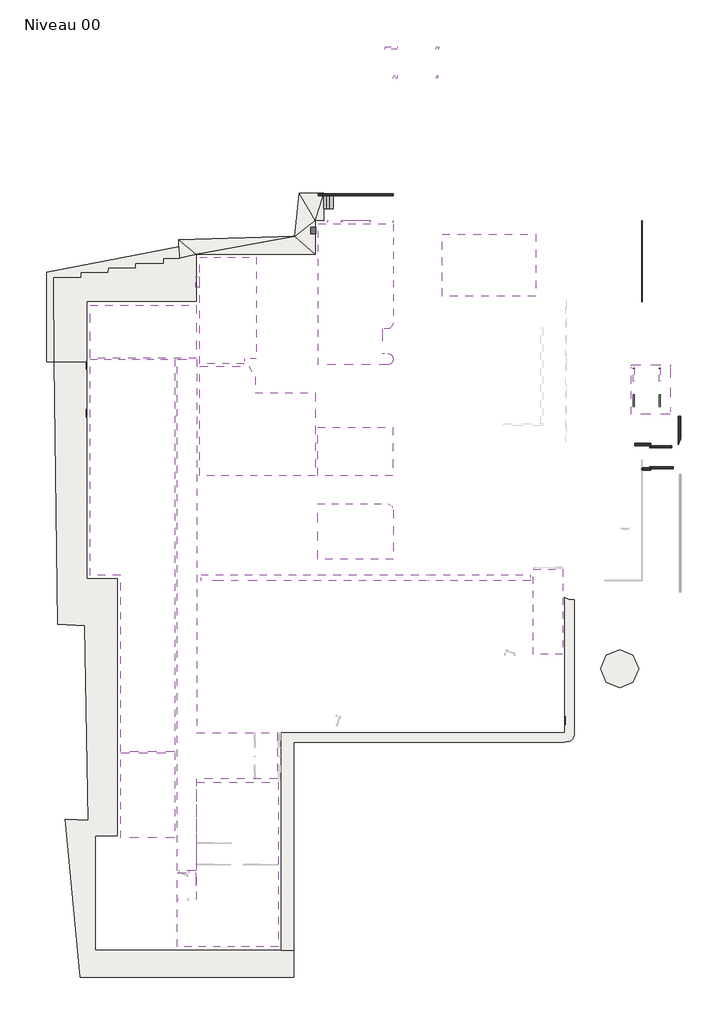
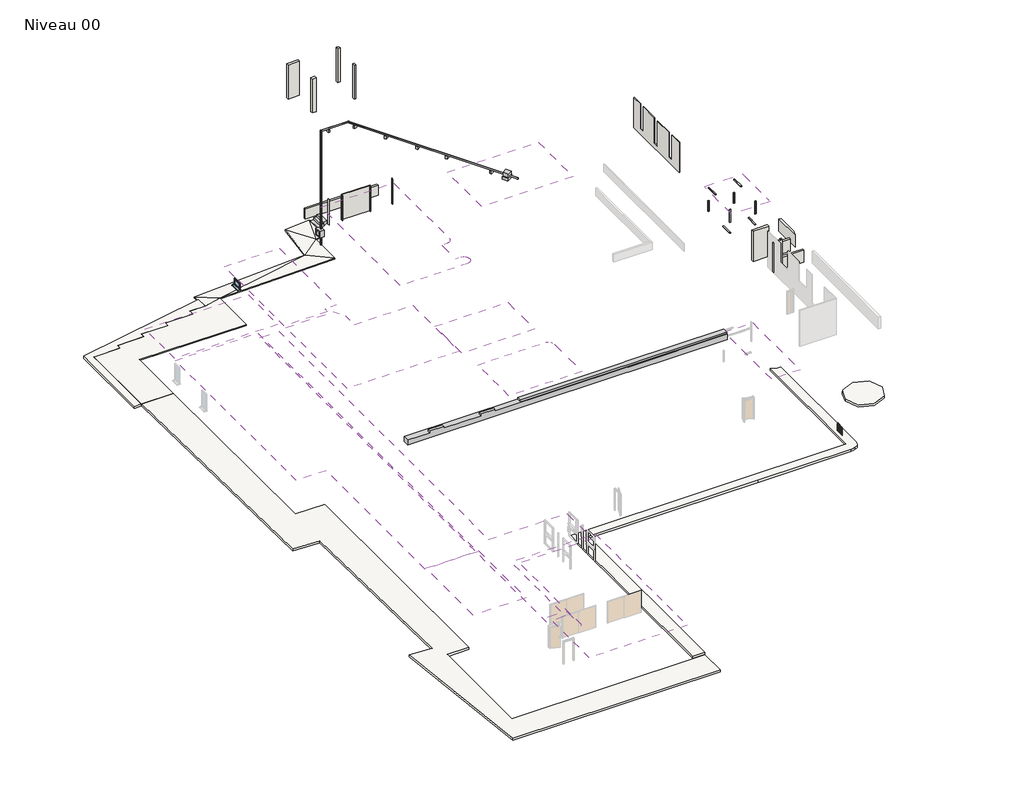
# One storey, part 2 of 2: 16 walls, 13 coverings, 8 members, 4 slabs, 3 proxies, 1 beam, 1 stair flight, 1 window.
"""IFC4 building model written with IfcOpenShell, lengths in millimetres."""

from ifc_helpers import new_model, si_unit, point, frame, frame_2d, origin, place, context, project, spatial, polyline, circle_curve, trimmed, segment, composite_curve, outline, extrude, faceted_brep, transform, mapped, element, save
from ifc_brep_helpers import plane_surface, cylinder_surface, advanced_brep
from components import generic_models_d6e69593, gaz_01_622c0aa1, type_a_d892137f, meneau_rectangulaire_50_x_100mm_d37e7714, meneau_rectangulaire_50_x_100mm_6a33d58d, meneau_rectangulaire_50_x_100mm_9fbe2ceb, meneau_rectangulaire_50_x_100mm_ca9cbeae, window_90_x_60cm_7dc5db21

model = new_model("IFC4")

# Units and contexts
model_context = context("Model", 3, world=origin())
ifc_project = project(units=[si_unit("LENGTHUNIT", "METRE", prefix="MILLI")], contexts=[model_context])

# Site, building, storey
site = spatial("IfcSite", under=ifc_project)
building = spatial("IfcBuilding", under=site)
storey = spatial("IfcBuildingStorey", under=building, Name="Niveau 00", Elevation=0.0)

# Beam
placement = place(None, origin())
element("IfcBeam", 1, ObjectType="M_Béton-Poutre rectangulaire T2 : 55x65h", at=placement, inside=storey, context=model_context, shape_type="Brep", body=[
    faceted_brep([(-6831.0863322, -21061.25307, 3221.8727639), (-6831.0863322, -20511.25307, 3221.8727639), (-6831.0863322, -20511.25307, 3871.8727639), (-6831.0863322, -20966.25307, 3871.8727639), (-6831.0863322, -20966.25307, 3703.3082742), (-6831.0863322, -21061.25307, 3703.3082742), (-35918.9891752, -20511.25307, 3221.8727639), (-35918.9891752, -21061.25307, 3221.8727639), (-35918.9891752, -21061.25307, 3703.3082742), (-35918.9891752, -20511.25307, 3703.3082742), (-15797.6697002, -20511.25307, 3871.8727639), (-15997.6697002, -20511.25307, 3871.8727639), (-25593.9891731, -20511.25307, 3871.8727639), (-25593.9891731, -20966.25307, 3871.8727639), (-15997.6697002, -21061.25307, 3221.8727639), (-15797.6697002, -21061.25307, 3221.8727639), (-15797.6697002, -21061.25307, 3703.3082742), (-15997.6697002, -21061.25307, 3703.3082742), (-27960.9246741, -21061.25307, 3703.3082742), (-27960.9246741, -21061.25307, 3871.8727639), (-29260.9246741, -21061.25307, 3871.8727639), (-29260.9246741, -21061.25307, 3703.3082742), (-32619.0462334, -21061.25307, 3703.3082742), (-32619.0462334, -21061.25307, 3871.8727639), (-33919.0462334, -21061.25307, 3871.8727639), (-33919.0462334, -21061.25307, 3703.3082742), (-15997.6697002, -20511.25307, 3221.8727639), (-15797.6697002, -20511.25307, 3221.8727639), (-25593.9891731, -20511.25307, 3703.3082742), (-33919.0462334, -20827.822974, 3703.3082742), (-32619.0462334, -20827.822974, 3703.3082742), (-29260.9246741, -20827.822974, 3703.3082742), (-27960.9246741, -20827.822974, 3703.3082742), (-25593.9891731, -20966.25307, 3703.3082742), (-32619.0462334, -20827.822974, 3871.8727639), (-33919.0462334, -20827.822974, 3871.8727639), (-29260.9246741, -20827.822974, 3871.8727639), (-27960.9246741, -20827.822974, 3871.8727639)], [[[0, 1, 2, 3, 4, 5]], [[6, 7, 8, 9]], [[3, 2, 10, 11, 12, 13]], [[7, 14, 15, 0, 5, 16, 17, 18, 19, 20, 21, 22, 23, 24, 25, 8]], [[1, 0, 15, 14, 7, 6, 26, 27]], [[2, 1, 27, 26, 6, 9, 28, 12, 11, 10]], [[29, 30, 22, 21, 31, 32, 18, 17, 16, 5, 4, 33, 28, 9, 8, 25]], [[28, 33, 13, 12]], [[33, 4, 3, 13]], [[22, 30, 34, 23]], [[30, 29, 35, 34]], [[29, 25, 24, 35]], [[32, 31, 36, 37]], [[31, 21, 20, 36]], [[18, 32, 37, 19]], [[20, 19, 37, 36]], [[24, 23, 34, 35]]]),
])

# Proxies
generic_models_shape = generic_models_d6e69593(model_context)
element("IfcBuildingElementProxy", 2, Name="Conduit Gaz : Conduit Gaz", ObjectType="Conduit Gaz : Conduit Gaz", at=placement, inside=storey, context=model_context, shape_type="MappedRepresentation", body=[
    mapped(generic_models_shape, transform((0.0, 0.0, 0.0), x_axis=(1.0, 0.0, 0.0), y_axis=(0.0, 1.0, 0.0), z_axis=(0.0, 0.0, 1.0))),
])
gaz_01_shape = gaz_01_622c0aa1(model_context)
element("IfcBuildingElementProxy", 3, Name="GAZ : #01", ObjectType="GAZ : #01", at=placement, inside=storey, context=model_context, shape_type="MappedRepresentation", body=[
    mapped(gaz_01_shape, transform((-25773.9891757, 9919.7515991, 1140.0), x_axis=(0.0, -1.0, 0.0), y_axis=(1.0, 0.0, 0.0), z_axis=(0.0, 0.0, 1.0))),
])
type_a_shape = type_a_d892137f(model_context)
element("IfcBuildingElementProxy", 4, Name="Grille d'aération - Mur : Type A", ObjectType="Grille d'aération - Mur : Type A", at=placement, inside=storey, context=model_context, shape_type="MappedRepresentation", body=[
    mapped(type_a_shape, transform((-3725.9483345, -33283.769554, -1374.7653088), x_axis=(0.0, -1.0, 0.0), y_axis=(1.0, 0.0, 0.0), z_axis=(0.0, 0.0, 1.0))),
])

# Coverings
element("IfcCovering", 5, ObjectType="Normal", at=placement, inside=storey, context=model_context, shape_type="SweptSolid", body=[
    extrude(outline(polyline([(-38243.9891749, -1481.0175877), (-38243.9891749, -36189.0543071), (-43042.9002047, -36189.0543071), (-43042.9002047, -20566.6974201), (-45739.2374821, -20566.6974201), (-45739.2374821, -1481.0175877), (-38243.9891749, -1481.0175877)])), frame((0.0, 0.0, 2950.0), z_axis=(0.0, 0.0, 1.0), x_axis=(1.0, 0.0, 0.0)), (0.0, 0.0, 1.0), 50.0),
])
element("IfcCovering", 6, ObjectType="Normal", at=placement, inside=storey, context=model_context, shape_type="Brep", body=[
    faceted_brep([(-31051.1142211, 7572.6789506, 3150.0), (-36043.9891754, 7572.6789506, 3150.0), (-36043.9891754, -1877.8947551, 3150.0), (-32104.7401237, -1877.894755, 3150.0), (-32104.7401237, -1427.894755, 3150.0), (-31051.1142211, -1427.894755, 3150.0), (-32669.0462334, 3122.177026, 3150.0), (-32669.0462334, 1622.177026, 3150.0), (-33869.0462334, 1622.177026, 3150.0), (-33869.0462334, 3122.177026, 3150.0), (-32669.0462334, 152.6428853, 3150.0), (-32669.0462334, -1347.3571147, 3150.0), (-33869.0462334, -1347.3571147, 3150.0), (-33869.0462334, 152.6428853, 3150.0), (-32669.0462334, 6171.7111666, 3150.0), (-32669.0462334, 4671.7111666, 3150.0), (-33869.0462334, 4671.7111666, 3150.0), (-33869.0462334, 6171.7111666, 3150.0), (-36043.9891754, 7572.6789506, 3100.0), (-31051.1142211, 7572.6789506, 3100.0), (-31051.1142211, -1427.894755, 3100.0), (-32104.7401237, -1427.894755, 3100.0), (-32104.7401237, -1877.894755, 3100.0), (-36043.9891754, -1877.8947551, 3100.0), (-32719.0462334, 4721.7111666, 3100.0), (-32719.0462334, 6121.7111666, 3100.0), (-33819.0462334, 6121.7111666, 3100.0), (-33819.0462334, 4721.7111666, 3100.0), (-32719.0462334, 1672.177026, 3100.0), (-32719.0462334, 3072.177026, 3100.0), (-33819.0462334, 3072.177026, 3100.0), (-33819.0462334, 1672.177026, 3100.0), (-32719.0462334, -1297.3571147, 3100.0), (-32719.0462334, 102.6428853, 3100.0), (-33819.0462334, 102.6428853, 3100.0), (-33819.0462334, -1297.3571147, 3100.0), (-32719.0462334, 4721.7111666, 3110.0), (-32719.0462334, 6121.7111666, 3110.0), (-33819.0462334, 4721.7111666, 3110.0), (-33819.0462334, 6121.7111666, 3110.0), (-32719.0462334, 1672.177026, 3110.0), (-32719.0462334, 3072.177026, 3110.0), (-33819.0462334, 1672.177026, 3110.0), (-33819.0462334, 3072.177026, 3110.0), (-32719.0462334, -1297.3571147, 3110.0), (-32719.0462334, 102.6428853, 3110.0), (-33819.0462334, -1297.3571147, 3110.0), (-33819.0462334, 102.6428853, 3110.0), (-33869.0462334, 1622.177026, 3110.0), (-32669.0462334, 1622.177026, 3110.0), (-32669.0462334, 3122.177026, 3110.0), (-33869.0462334, 3122.177026, 3110.0), (-33869.0462334, -1347.3571147, 3110.0), (-32669.0462334, -1347.3571147, 3110.0), (-32669.0462334, 152.6428853, 3110.0), (-33869.0462334, 152.6428853, 3110.0), (-33869.0462334, 4671.7111666, 3110.0), (-32669.0462334, 4671.7111666, 3110.0), (-32669.0462334, 6171.7111666, 3110.0), (-33869.0462334, 6171.7111666, 3110.0)], [[[0, 1, 2, 3, 4, 5], [6, 7, 8, 9], [10, 11, 12, 13], [14, 15, 16, 17]], [[18, 19, 20, 21, 22, 23], [24, 25, 26, 27], [28, 29, 30, 31], [32, 33, 34, 35]], [[1, 0, 19, 18]], [[2, 1, 18, 23]], [[3, 2, 23, 22]], [[4, 3, 22, 21]], [[5, 4, 21, 20]], [[0, 5, 20, 19]], [[25, 24, 36, 37]], [[24, 27, 38, 36]], [[27, 26, 39, 38]], [[26, 25, 37, 39]], [[29, 28, 40, 41]], [[28, 31, 42, 40]], [[31, 30, 43, 42]], [[30, 29, 41, 43]], [[33, 32, 44, 45]], [[32, 35, 46, 44]], [[35, 34, 47, 46]], [[34, 33, 45, 47]], [[48, 49, 50, 51], [41, 40, 42, 43]], [[52, 53, 54, 55], [45, 44, 46, 47]], [[56, 57, 58, 59], [37, 36, 38, 39]], [[50, 49, 7, 6]], [[51, 50, 6, 9]], [[48, 51, 9, 8]], [[49, 48, 8, 7]], [[54, 53, 11, 10]], [[55, 54, 10, 13]], [[52, 55, 13, 12]], [[53, 52, 12, 11]], [[58, 57, 15, 14]], [[59, 58, 14, 17]], [[56, 59, 17, 16]], [[57, 56, 16, 15]]]),
])
element("IfcCovering", 7, ObjectType="Normal", at=placement, inside=storey, context=model_context, shape_type="SweptSolid", body=[
    extrude(outline(polyline([(-44961.7005075, -53401.1523244), (-44961.7005075, -43867.1378737), (-38243.9891749, -43867.1378737), (-38243.9891749, -53401.1523244), (-44961.7005075, -53401.1523244)])), frame((0.0, 0.0, 3100.0), z_axis=(0.0, 0.0, 1.0), x_axis=(1.0, 0.0, 0.0)), (0.0, 0.0, 1.0), 50.0),
    extrude(outline(polyline([(-29123.0967815, -38859.0543071), (-29123.0967815, -53401.1523244), (-38043.9891749, -53401.1523244), (-38043.9891749, -46874.4568753), (-36403.9891748, -46874.4568753), (-36403.9891748, -49189.481824), (-36303.9891748, -49189.481824), (-36303.9891748, -38859.0543071), (-29123.0967815, -38859.0543071)])), frame((0.0, 0.0, 3100.0), z_axis=(0.0, 0.0, 1.0), x_axis=(1.0, 0.0, 0.0)), (0.0, 0.0, 1.0), 50.0),
])
element("IfcCovering", 8, ObjectType="Normal", at=placement, inside=storey, context=model_context, shape_type="SweptSolid", body=[
    extrude(outline(polyline([(-38043.9891749, -1481.0175876), (-36318.9891758, -1481.0175876), (-36318.9891749, -34509.0543071), (-29183.0967808, -34509.0543071), (-29183.0967808, -38559.0543071), (-36343.9891748, -38559.0543071), (-36343.9891748, -46674.4568753), (-38043.9891749, -46674.4568753), (-38043.9891749, -1481.0175876)]), holes=[polyline([(-37825.1308608, -1997.4), (-37825.1308608, -11819.6), (-36604.6058435, -11819.6), (-36604.6058435, -1997.4), (-37825.1308608, -1997.4)]), polyline([(-37822.5825058, -14149.192702), (-37822.5825058, -38171.392702), (-36603.3658873, -38171.392702), (-36603.3658873, -14149.192702), (-37822.5825058, -14149.192702)]), polyline([(-34179.0458982, -36054.322974), (-34179.0458982, -37154.322974), (-33080.5534099, -37154.322974), (-33080.5534099, -36054.322974), (-34179.0458982, -36054.322974)])]), frame((0.0, 0.0, 2450.0), z_axis=(0.0, 0.0, 1.0), x_axis=(1.0, 0.0, 0.0)), (0.0, 0.0, 1.0), 50.0),
])
element("IfcCovering", 9, ObjectType="Normal", at=placement, inside=storey, context=model_context, shape_type="SweptSolid", body=[
    extrude(outline(polyline([(-6531.0863322, -20050.1709526), (-3945.9483345, -20050.1709526), (-3945.9483345, -27537.5199086), (-6531.0863322, -27537.5199086), (-6531.0863322, -20050.1709526)])), frame((0.0, 0.0, 3200.0), z_axis=(0.0, 0.0, 1.0), x_axis=(1.0, 0.0, 0.0)), (0.0, 0.0, 1.0), 50.0),
])
element("IfcCovering", 10, ObjectType="Normal", at=placement, inside=storey, context=model_context, shape_type="SweptSolid", body=[
    extrude(outline(polyline([(-6328.022694, 9599.0806224), (-6328.022694, 4110.8240436), (-14614.7120712, 4110.8240436), (-14614.7120712, 9599.0806224), (-6328.022694, 9599.0806224)])), frame((0.0, 0.0, 3443.3082742), z_axis=(0.0, 0.0, 1.0), x_axis=(1.0, 0.0, 0.0)), (0.0, 0.0, 1.0), 50.0),
])
element("IfcCovering", 11, ObjectType="Normal", at=placement, inside=storey, context=model_context, shape_type="AdvancedBrep", body=[
    advanced_brep(
    [(-19494.1054564, 1216.2912043, 3400.0), (-18944.1054563, 1766.2912045, 3400.0), (-18944.0938637, 10540.8848592, 3400.0), (-25553.9891729, 10540.8848592, 3400.0), (-25553.9891729, -1968.7412456, 3400.0), (-19413.2254305, -1968.7412458, 3400.0), (-19408.571564, -934.1864447, 3400.0), (-19923.4631762, -934.1864447, 3400.0), (-19923.4631762, 1216.2912043, 3400.0), (-19494.1054564, 1216.2912043, 3350.0), (-19923.4631762, 1216.2912043, 3350.0), (-19923.4631762, -934.1864447, 3350.0), (-19408.571564, -934.1864447, 3350.0), (-19413.2254305, -1968.7412458, 3350.0), (-25553.9891729, -1968.7412456, 3350.0), (-25553.9891729, 10540.8848592, 3350.0), (-18944.0938637, 10540.8848592, 3350.0), (-18944.0938637, 1766.2912044, 3350.0)],
    [
        (0, 1, circle_curve(frame((-19494.1054564, 1766.2912045, 3400.0), z_axis=(0.0, 0.0, 1.0), x_axis=(1.0, 0.0, 0.0)), 550.0000002)),
        (1, 2),
        (2, 3),
        (3, 4),
        (4, 5),
        (5, 6, circle_curve(frame((-19463.989174, -1451.2250209, 3400.0), z_axis=(0.0, 0.0, 1.0), x_axis=(1.0, 0.0, 0.0)), 520.0000007)),
        (6, 7),
        (7, 8),
        (8, 0),
        (9, 10),
        (10, 11),
        (11, 12),
        (12, 13, circle_curve(frame((-19463.989174, -1451.2250209, 3350.0), z_axis=(0.0, 0.0, -1.0), x_axis=(1.0, 0.0, 0.0)), 520.0000007)),
        (13, 14),
        (14, 15),
        (15, 16),
        (16, 17),
        (17, 9, circle_curve(frame((-19494.1054564, 1766.2912045, 3350.0), z_axis=(0.0, 0.0, -1.0), x_axis=(1.0, 0.0, 0.0)), 550.0000002)),
        (0, 9),
        (17, 1),
        (16, 2),
        (15, 3),
        (14, 4),
        (13, 5),
        (12, 6),
        (11, 7),
        (10, 8),
    ],
    [
        plane_surface(frame((-18944.1054563, 1766.2912045, 3400.0), z_axis=(0.0, 0.0, 1.0), x_axis=(0.0, 1.0, 0.0))),
        plane_surface(frame((-18944.1054563, 1766.2912045, 3350.0), z_axis=(0.0, 0.0, -1.0), x_axis=(0.0, -1.0, 0.0))),
        cylinder_surface(frame((-19494.1054564, 1766.2912045, 3350.0), z_axis=(0.0, 0.0, 1.0), x_axis=(1.0, 0.0, 0.0)), 550.0000002),
        plane_surface(frame((-18944.0938637, 1766.2912044, 3400.0), z_axis=(1.0, 0.0, 0.0), x_axis=(0.0, 0.0, -1.0))),
        plane_surface(frame((-18944.0938637, 10540.8848592, 3400.0), z_axis=(0.0, 1.0, 0.0), x_axis=(0.0, 0.0, -1.0))),
        plane_surface(frame((-25553.9891729, 10540.8848592, 3400.0), z_axis=(-1.0, 0.0, 0.0), x_axis=(0.0, 0.0, -1.0))),
        plane_surface(frame((-25553.9891729, -1968.7412456, 3400.0), z_axis=(-4.0842466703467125e-11, -1.0, 0.0), x_axis=(0.0, 0.0, -1.0))),
        cylinder_surface(frame((-19463.989174, -1451.2250209, 3350.0), z_axis=(0.0, 0.0, 1.0), x_axis=(1.0, 0.0, 0.0)), 520.0000007),
        plane_surface(frame((-19408.571564, -934.1864447, 3400.0), z_axis=(0.0, 1.0, 0.0), x_axis=(0.0, 0.0, -1.0))),
        plane_surface(frame((-19923.4631762, -934.1864447, 3400.0), z_axis=(1.0, 0.0, 0.0), x_axis=(0.0, 0.0, -1.0))),
        plane_surface(frame((-19923.4631762, 1216.2912043, 3400.0), z_axis=(0.0, -1.0, 0.0), x_axis=(0.0, 0.0, -1.0))),
    ],
    [
        (0, [[1, 2, 3, 4, 5, 6, 7, 8, 9]]),
        (1, [[10, 11, 12, 13, 14, 15, 16, 17, 18]]),
        (2, [[-1, 19, -18, 20]]),
        (3, [[-2, -20, -17, 21]]),
        (4, [[-3, -21, -16, 22]]),
        (5, [[-4, -22, -15, 23]]),
        (6, [[-5, -23, -14, 24]]),
        (7, [[-6, -24, -13, 25]]),
        (8, [[-7, -25, -12, 26]]),
        (9, [[-8, -26, -11, 27]]),
        (10, [[-9, -27, -10, -19]]),
    ],
),
])
element("IfcCovering", 12, ObjectType="Normal", at=placement, inside=storey, context=model_context, shape_type="SweptSolid", body=[
    extrude(outline(polyline([(-25593.9891711, -11749.0543063), (-25593.9891711, -7468.7412448), (-18958.9891727, -7468.7412448), (-18958.9891727, -11749.0543063), (-25593.9891711, -11749.0543063)])), frame((0.0, 0.0, 2800.0), z_axis=(0.0, 0.0, 1.0), x_axis=(1.0, 0.0, 0.0)), (0.0, 0.0, 1.0), 50.0),
])
element("IfcCovering", 13, ObjectType="Normal", at=placement, inside=storey, context=model_context, shape_type="SweptSolid", body=[
    extrude(outline(polyline([(-36343.9891745, 3334.644505), (-36343.9891745, -1381.0175877), (-45739.2374821, -1381.0175877), (-45739.2374821, 3334.644505), (-36343.9891745, 3334.644505)])), frame((0.0, 0.0, 3050.0), z_axis=(0.0, 0.0, 1.0), x_axis=(1.0, 0.0, 0.0)), (0.0, 0.0, 1.0), 50.0),
])
element("IfcCovering", 14, ObjectType="Normal", at=placement, inside=storey, context=model_context, shape_type="SweptSolid", body=[
    extrude(outline(polyline([(-25843.9891711, -11759.0543063), (-36043.9891754, -11759.0543063), (-36043.9891754, -2077.8947551), (-31719.6166107, -2077.894755), (-31151.1142183, -3018.6471572), (-31151.1142183, -4418.7412446), (-25843.9891711, -4418.7412446), (-25843.9891711, -11759.0543063)]), holes=[polyline([(-32719.0462334, -2926.8912553), (-33819.0462334, -2926.8912553), (-33819.0462334, -4326.8912553), (-32719.0462334, -4326.8912553), (-32719.0462334, -2926.8912553)]), polyline([(-32719.0462334, -5902.822974), (-33819.0462334, -5902.822974), (-33819.0462334, -7302.822974), (-32719.0462334, -7302.822974), (-32719.0462334, -5902.822974)]), polyline([(-32719.0462334, -10307.822974), (-32719.0462334, -8907.822974), (-33819.0462334, -8907.822974), (-33819.0462334, -10307.822974), (-32719.0462334, -10307.822974)]), polyline([(-29040.9246741, -5895.322974), (-29040.9246741, -7302.822974), (-27933.4246741, -7302.822974), (-27933.4246741, -5895.322974), (-29040.9246741, -5895.322974)]), polyline([(-29040.9246741, -10307.822974), (-27933.4246741, -10307.822974), (-27933.4246741, -8900.322974), (-29040.9246741, -8900.322974), (-29040.9246741, -10307.822974)])]), frame((0.0, 0.0, 3080.0), z_axis=(0.0, 0.0, 1.0), x_axis=(1.0, 0.0, 0.0)), (0.0, 0.0, 1.0), 50.0),
])
element("IfcCovering", 15, ObjectType="Normal", at=placement, inside=storey, context=model_context, shape_type="SweptSolid", body=[
    extrude(outline(composite_curve([segment(polyline([(-25593.9891729, -19159.0543067), (-25593.9891729, -14239.1151366), (-19389.5861288, -14239.1151366)]), True, "CONTINUOUS"), segment(trimmed(circle_curve(frame_2d((-19493.9891721, -14779.115141)), 550.0000002), [point((-19389.5861288, -14239.1151366))], [point((-18943.9891719, -14779.115141))], False, "CARTESIAN"), True, "CONTINUOUS"), segment(polyline([(-18943.9891719, -14779.115141), (-18943.9891718, -19159.0543067), (-25593.9891729, -19159.0543067)]), True, "CONTINUOUS")], self_intersect=False)), frame((0.0, 0.0, 3200.0), z_axis=(0.0, 0.0, 1.0), x_axis=(1.0, 0.0, 0.0)), (0.0, 0.0, 1.0), 50.0),
])
element("IfcCovering", 16, ObjectType="Normal", at=placement, inside=storey, context=model_context, shape_type="SweptSolid", body=[
    extrude(outline(polyline([(-43042.9002047, -43767.1378736), (-43042.9002047, -36264.8269594), (-38243.9891749, -36264.8269594), (-38243.9891749, -43767.1378736), (-43042.9002047, -43767.1378736)])), frame((0.0, 0.0, 3100.0), z_axis=(0.0, 0.0, 1.0), x_axis=(1.0, 0.0, 0.0)), (0.0, 0.0, 1.0), 50.0),
])
element("IfcCovering", 17, ObjectType="Normal FP Bleu", at=placement, inside=storey, context=model_context, shape_type="Brep", body=[
    faceted_brep([(5579.2383271, -6329.9413933, 3228.0838649), (5579.2383271, -5899.6253835, 3228.0838649), (5579.2383271, -5699.6253835, 3228.0838649), (5579.2383271, -2249.6253919, 3228.0838649), (5579.2383271, -2049.6253919, 3228.0838649), (5579.2383271, -1932.3694361, 3228.0838649), (2100.3283813, -1932.3694361, 3228.0838649), (2100.3283813, -2049.6253919, 3228.0838649), (2100.3283813, -2249.6253919, 3228.0838649), (2100.3283813, -6329.9413933, 3228.0838649), (5579.2383271, -6329.9413933, 3198.0838649), (2100.3283813, -6329.9413933, 3198.0838649), (2100.3283813, -2249.6253919, 3198.0838649), (2100.3283813, -2049.6253919, 3198.0838649), (2100.3283813, -1932.3694361, 3198.0838649), (5579.2383271, -1932.3694361, 3198.0838649), (5579.2383271, -2049.6253919, 3198.0838649), (5579.2383271, -2249.6253919, 3198.0838649), (5579.2383271, -5699.6253835, 3198.0838649), (5579.2383271, -5899.6253835, 3198.0838649)], [[[0, 1, 2, 3, 4, 5, 6, 7, 8, 9]], [[10, 11, 12, 13, 14, 15, 16, 17, 18, 19]], [[5, 4, 3, 2, 1, 0, 10, 19, 18, 17, 16, 15]], [[6, 5, 15, 14]], [[9, 8, 7, 6, 14, 13, 12, 11]], [[0, 9, 11, 10]]]),
])

# Members
meneau_rectangulaire_50_x_100mm_shape = meneau_rectangulaire_50_x_100mm_d37e7714(model_context)
element("IfcMember", 18, ObjectType="Meneau rectangulaire : 50 x 100mm", at=placement, inside=storey, context=model_context, shape_type="MappedRepresentation", body=[
    mapped(meneau_rectangulaire_50_x_100mm_shape, transform((4624.2383271, -2299.6253919, 3243.3082742), x_axis=(0.0, 0.0, 1.0), y_axis=(1.0, 0.0, 0.0), z_axis=(0.0, 1.0, 0.0))),
])
element("IfcMember", 19, ObjectType="Meneau rectangulaire : 50 x 100mm", at=placement, inside=storey, context=model_context, shape_type="MappedRepresentation", body=[
    mapped(meneau_rectangulaire_50_x_100mm_shape, transform((2320.3283813, -2299.6253919, 3243.3082742), x_axis=(0.0, 0.0, 1.0), y_axis=(1.0, 0.0, 0.0), z_axis=(0.0, 1.0, 0.0))),
])
meneau_rectangulaire_50_x_100mm_2_shape = meneau_rectangulaire_50_x_100mm_6a33d58d(model_context)
element("IfcMember", 20, ObjectType="Meneau rectangulaire : 50 x 100mm", at=placement, inside=storey, context=model_context, shape_type="MappedRepresentation", body=[
    mapped(meneau_rectangulaire_50_x_100mm_2_shape, transform((4624.2383271, -2249.6253919, 943.3082742), x_axis=(0.0, 1.0, 0.0), y_axis=(1.0, 0.0, 0.0), z_axis=(0.0, 0.0, -1.0))),
])
element("IfcMember", 21, ObjectType="Meneau rectangulaire : 50 x 100mm", at=placement, inside=storey, context=model_context, shape_type="MappedRepresentation", body=[
    mapped(meneau_rectangulaire_50_x_100mm_2_shape, transform((2320.3283813, -2249.6253919, 943.3082742), x_axis=(0.0, 1.0, 0.0), y_axis=(1.0, 0.0, 0.0), z_axis=(0.0, 0.0, -1.0))),
])
meneau_rectangulaire_50_x_100mm_3_shape = meneau_rectangulaire_50_x_100mm_9fbe2ceb(model_context)
element("IfcMember", 22, ObjectType="Meneau rectangulaire : 50 x 100mm", at=placement, inside=storey, context=model_context, shape_type="MappedRepresentation", body=[
    mapped(meneau_rectangulaire_50_x_100mm_3_shape, transform((4624.2383271, -5699.6253835, 3193.3082742), x_axis=(0.0, -1.0, 0.0), y_axis=(1.0, 0.0, 0.0), z_axis=(0.0, 0.0, 1.0))),
])
element("IfcMember", 23, ObjectType="Meneau rectangulaire : 50 x 100mm", at=placement, inside=storey, context=model_context, shape_type="MappedRepresentation", body=[
    mapped(meneau_rectangulaire_50_x_100mm_3_shape, transform((2320.3283813, -5699.6253835, 3193.3082742), x_axis=(0.0, -1.0, 0.0), y_axis=(1.0, 0.0, 0.0), z_axis=(0.0, 0.0, 1.0))),
])
meneau_rectangulaire_50_x_100mm_4_shape = meneau_rectangulaire_50_x_100mm_ca9cbeae(model_context)
element("IfcMember", 24, ObjectType="Meneau rectangulaire : 50 x 100mm", at=placement, inside=storey, context=model_context, shape_type="MappedRepresentation", body=[
    mapped(meneau_rectangulaire_50_x_100mm_4_shape, transform((4624.2383271, -5649.6253835, 893.3082742), x_axis=(0.0, 0.0, -1.0), y_axis=(1.0, 0.0, 0.0), z_axis=(0.0, -1.0, 0.0))),
])
element("IfcMember", 25, ObjectType="Meneau rectangulaire : 50 x 100mm", at=placement, inside=storey, context=model_context, shape_type="MappedRepresentation", body=[
    mapped(meneau_rectangulaire_50_x_100mm_4_shape, transform((2320.3283813, -5649.6253835, 893.3082742), x_axis=(0.0, 0.0, -1.0), y_axis=(1.0, 0.0, 0.0), z_axis=(0.0, -1.0, 0.0))),
])

# Slabs
element("IfcSlab", 26, ObjectType="carrelage terrasse 200mm", at=placement, inside=storey, context=model_context, shape_type="SweptSolid", body=[
    extrude(outline(polyline([(-46039.2374821, -1706.7284462), (-46039.2374821, -20866.6974201), (-43342.9002047, -20882.8520971), (-43342.9002047, -43577.1378761), (-45301.7005075, -43577.1378761), (-45301.7005075, -53741.1523244), (-27723.0967792, -53741.1523244), (-27723.0967792, -56128.1113003), (-46588.7261156, -56128.1113003), (-47934.7141649, -42121.2864604), (-45919.6099418, -42244.9240937), (-46193.8644033, -25019.8027554), (-48591.5599793, -24914.6555968), (-48929.6545442, -1722.1702012), (-46039.2374821, -1706.7284462)])), frame((0.0, 0.0, -200.0), z_axis=(0.0, 0.0, 1.0), x_axis=(1.0, 0.0, 0.0)), (0.0, 0.0, 1.0), 200.0),
    extrude(outline(polyline([(-49591.0404334, 6247.9116205), (-37895.7527535, 8478.3053744), (-37872.4166644, 7450.7897696), (-39262.9826212, 7434.2211689), (-39268.9069108, 7019.1922881), (-41761.9911606, 7012.0974128), (-41752.0640546, 6629.7354769), (-44152.7200695, 6616.3017196), (-44160.3976718, 6220.7762117), (-46558.7545414, 6183.0409659), (-46575.8167637, 5793.9984725), (-48029.075557, 5778.5469408), (-48977.6769405, 5768.4610951), (-48965.5471122, -1696.337001), (-49591.0404334, -1699.6786346), (-49591.0404334, 6247.9116205)])), frame((0.0, 0.0, -200.0), z_axis=(0.0, 0.0, 1.0), x_axis=(1.0, 0.0, 0.0)), (0.0, 0.0, 1.0), 200.0),
])
element("IfcSlab", 27, ObjectType="Générique 100 mm - Plein", at=placement, inside=storey, context=model_context, shape_type="Brep", body=[
    faceted_brep([(-25093.9891757, 13203.6568459, 200.0), (-25093.9891757, 13203.6568459, 300.0), (-25093.9891757, 10801.8580291, 300.0), (-25093.9891757, 10801.8580291, 200.0), (-27260.9470428, 13203.6568459, 30.0), (-27260.9470428, 13203.6568459, 130.0), (-27649.3448638, 9419.8175697, 50.0), (-27649.3448638, 9419.8175697, 150.0), (-37909.7816636, 9096.0148818, -200.0), (-37909.7816636, 9096.0148818, -100.0), (-37872.4166644, 7450.7897696, -100.0), (-37872.4166644, 7450.7897696, 0.0), (-39262.9826212, 7434.2211689, -100.0), (-39262.9826212, 7434.2211689, 0.0), (-39268.9069108, 7019.1922881, -100.0), (-39268.9069108, 7019.1922881, 0.0), (-41761.9911606, 7012.0974128, -100.0), (-41761.9911606, 7012.0974128, 0.0), (-41752.0640546, 6629.7354769, -100.0), (-41752.0640546, 6629.7354769, 0.0), (-44152.7200695, 6616.3017196, -100.0), (-44152.7200695, 6616.3017196, 0.0), (-44160.3976718, 6220.7762117, -100.0), (-44160.3976718, 6220.7762117, 0.0), (-46558.7545414, 6183.0409659, -100.0), (-46558.7545414, 6183.0409659, 0.0), (-46575.8167637, 5793.9984725, -100.0), (-46575.8167637, 5793.9984725, 0.0), (-48029.075557, 5778.5469408, -100.0), (-48029.075557, 5778.5469408, 0.0), (-48977.6769405, 5768.4610951, -100.0), (-48977.6769405, 5768.4610951, 0.0), (-48965.5048236, -1722.3617276, -100.0), (-48965.5048236, -1722.3617276, 0.0), (-46039.2375049, -1706.7284463, -100.0), (-46039.2375049, -1706.7284463, 0.0), (-25453.9891729, 10812.9657021, 252.0000004), (-25653.9891729, 10819.1366316, 225.3333337), (-25843.9891757, 10824.9990148, 200.0), (-25843.9891757, 10824.9990148, 100.0), (-25579.5547608, 10816.8399841, 135.257922), (-25453.9891729, 10812.9657021, 152.0000004), (-25843.9891751, 7822.6789551, 200.0), (-25843.9891751, 7822.6789551, 100.0), (-36333.9891766, 7822.6789551, 0.0), (-36333.9891766, 7822.6789551, -100.0), (-36333.9891766, 3664.644505, 0.0), (-36333.9891766, 3664.644505, -100.0), (-46039.2375073, 3664.6445029, 0.0), (-46039.2375073, 3664.6445029, -100.0), (-25653.9891729, 11427.592341, 225.3333337), (-25585.2346923, 11645.6501858, 234.5005978)], [[[0, 1, 2, 3]], [[4, 5, 1, 0]], [[6, 7, 5, 4]], [[8, 9, 7, 6]], [[10, 11, 9, 8]], [[12, 13, 11, 10]], [[14, 15, 13, 12]], [[16, 17, 15, 14]], [[18, 19, 17, 16]], [[20, 21, 19, 18]], [[22, 23, 21, 20]], [[24, 25, 23, 22]], [[26, 27, 25, 24]], [[28, 29, 27, 26]], [[30, 31, 29, 28]], [[32, 33, 31, 30]], [[34, 35, 33, 32]], [[3, 2, 36, 37, 38, 39, 40, 41]], [[39, 38, 42, 43]], [[43, 42, 44, 45]], [[45, 44, 46, 47]], [[47, 46, 48, 49]], [[49, 48, 35, 34]], [[1, 5, 38, 50, 51]], [[0, 39, 4]], [[5, 7, 38]], [[1, 51, 50, 38, 37, 36, 2]], [[4, 39, 6]], [[0, 3, 41, 40, 39]], [[7, 9, 44]], [[6, 45, 8]], [[7, 42, 38]], [[6, 39, 43]], [[9, 11, 44]], [[7, 44, 42]], [[8, 45, 10]], [[6, 43, 45]], [[11, 13, 15, 17, 19, 21, 23, 25, 27, 29, 31, 33, 35, 48, 46, 44]], [[10, 45, 47, 49, 34, 32, 30, 28, 26, 24, 22, 20, 18, 16, 14, 12]]]),
])
element("IfcSlab", 28, ObjectType="gazon 200", at=placement, inside=storey, context=model_context, shape_type="SweptSolid", body=[
    extrude(outline(composite_curve([segment(trimmed(circle_curve(frame_2d((1078.0056442, -28837.0721403)), 1682.0470888), [point((-604.0414447, -28837.0721403))], [point((2760.052733, -28837.0721403))], False, "CARTESIAN"), True, "CONTINUOUS"), segment(trimmed(circle_curve(frame_2d((1078.0056442, -28837.0721403)), 1682.0470888), [point((2760.052733, -28837.0721403))], [point((-604.0414447, -28837.0721403))], False, "CARTESIAN"), True, "CONTINUOUS")], self_intersect=False)), frame((0.0, 0.0, -200.0), z_axis=(0.0, 0.0, 1.0), x_axis=(1.0, 0.0, 0.0)), (0.0, 0.0, 1.0), 200.0),
])
element("IfcSlab", 29, ObjectType="carrelage terrasse 200mm", at=placement, inside=storey, context=model_context, shape_type="SweptSolid", body=[
    extrude(outline(composite_curve([segment(polyline([(-27723.0967792, -35334.554731), (-27723.0967792, -53741.1523244), (-28823.0967447, -53741.1523244), (-28823.0967808, -34509.054307), (-3745.9483345, -34509.0543066), (-3745.9483345, -22510.0896184)]), True, "CONTINUOUS"), segment(trimmed(circle_curve(frame_2d((-3207.2166653, -22000.4141736)), 741.6204356), [point((-3745.9483345, -22510.0896184))], [point((-3323.4187679, -22732.8743717))], True, "CARTESIAN"), True, "CONTINUOUS"), segment(polyline([(-3323.4187679, -22732.8743717), (-2940.5272295, -22732.8743717), (-2940.5272295, -34509.0543066)]), True, "CONTINUOUS"), segment(trimmed(circle_curve(frame_2d((-3650.0440083, -34596.0236204)), 714.8270567), [point((-2940.5272295, -34509.0543066))], [point((-3099.0182115, -35051.3787481))], False, "CARTESIAN"), True, "CONTINUOUS"), segment(trimmed(circle_curve(frame_2d((-3504.3792583, -34731.1842995)), 516.5675785), [point((-3099.0182115, -35051.3787481))], [point((-3343.6271259, -35222.102638))], False, "CARTESIAN"), True, "CONTINUOUS"), segment(trimmed(circle_curve(frame_2d((-3833.3058683, -34023.0117903)), 1295.2235836), [point((-3343.6271259, -35222.102638))], [point((-3843.1383485, -35318.1980526))], False, "CARTESIAN"), True, "CONTINUOUS"), segment(polyline([(-3843.1383485, -35318.1980526), (-12237.2915038, -35334.5093322), (-27723.0967792, -35334.554731)]), True, "CONTINUOUS")], self_intersect=False)), frame((0.0, 0.0, 10.0), z_axis=(0.0, 0.0, 1.0), x_axis=(1.0, 0.0, 0.0)), (0.0, 0.0, 1.0), 200.0),
])

# Stair flight
element("IfcStairFlight", 30, ObjectType="Profondeur de structure 200 mm", at=placement, inside=storey, context=model_context, shape_type="Brep", body=[
    faceted_brep([(-24813.9891757, 12983.6568459, 408.5699058), (-25093.9891757, 12983.6568459, 408.5699058), (-25093.9891757, 11845.6501858, 408.5699058), (-24813.9891757, 11845.6501858, 408.5699058), (-24813.9891757, 12983.6568459, 230.0), (-25093.9891757, 12983.6568459, 230.0), (-25093.9891757, 11845.6501858, 230.0), (-24813.9891757, 11845.6501858, 230.0), (-24533.9891757, 12983.6568459, 587.1398115), (-24813.9891757, 12983.6568459, 587.1398115), (-24813.9891757, 11845.6501858, 587.1398115), (-24533.9891757, 11845.6501858, 587.1398115), (-24533.9891757, 12983.6568459, 349.9289658), (-24722.0393978, 12983.6568459, 230.0), (-24722.0393978, 11845.6501858, 230.0), (-24533.9891757, 11845.6501858, 349.9289658), (-24253.9891757, 12983.6568459, 765.7097173), (-24533.9891757, 12983.6568459, 765.7097173), (-24533.9891757, 11845.6501858, 765.7097173), (-24253.9891757, 11845.6501858, 765.7097173), (-24253.9891757, 12983.6568459, 528.4988716), (-24253.9891757, 11845.6501858, 528.4988716)], [[[0, 1, 2, 3]], [[1, 0, 4, 5]], [[2, 1, 5, 6]], [[3, 2, 6, 7]], [[8, 9, 10, 11]], [[4, 0, 9, 8, 12, 13]], [[0, 3, 10, 9]], [[3, 7, 14, 15, 11, 10]], [[16, 17, 18, 19]], [[17, 16, 20, 12, 8]], [[8, 11, 18, 17]], [[19, 18, 11, 15, 21]], [[16, 19, 21, 20]], [[5, 4, 13, 14, 7, 6]], [[14, 13, 12, 20, 21, 15]]]),
])

# Walls
element("IfcWall", 31, ObjectType="Mur EXE 200- Hach", at=placement, inside=storey, context=model_context, shape_type="AdvancedBrep", body=[
    advanced_brep(
    [(6284.4653664, -6499.6253828, 213.3082742), (6284.4653664, -9033.7294588, 213.3082742), (6284.4653664, -9033.7294588, 258.5326836), (6284.4653664, -9033.7294588, 1349.0273663), (6284.4653664, -6499.6253828, 1349.0273663), (6484.4653664, -6499.6253828, 213.3082742), (6484.4653664, -6499.6253828, 1349.0273663), (6484.4653664, -8504.5791969, 1349.0273663), (6484.4653664, -8504.5791969, 213.3082742)],
    [
        (0, 1),
        (1, 2),
        (2, 3),
        (3, 4),
        (4, 0),
        (5, 6),
        (6, 7),
        (7, 8),
        (8, 5),
        (0, 5),
        (8, 1, circle_curve(frame((5684.4653671, -8504.5791969, 213.3082742), z_axis=(0.0, 0.0, -1.0), x_axis=(1.0, 0.0, 0.0)), 799.9999993)),
        (3, 7, circle_curve(frame((5684.4653671, -8504.5791969, 1349.0273663), z_axis=(0.0, 0.0, 1.0), x_axis=(1.0, 0.0, 0.0)), 799.9999993)),
        (6, 4),
    ],
    [
        plane_surface(frame((6284.4653664, -8527.2577579, 213.3082742), z_axis=(-1.0, 0.0, 0.0), x_axis=(0.0, -1.0, 0.0))),
        plane_surface(frame((6484.4653664, -8527.2577579, 213.3082742), z_axis=(1.0, 0.0, 0.0), x_axis=(0.0, 1.0, 0.0))),
        plane_surface(frame((6284.4653664, -6499.6253828, 213.3082742), z_axis=(0.0, 0.0, -1.0), x_axis=(1.0, 0.0, 0.0))),
        plane_surface(frame((6284.4653664, -9352.6630618, 1349.0273663), z_axis=(0.0, 0.0, 1.0), x_axis=(1.0, 0.0, 0.0))),
        plane_surface(frame((6284.4653664, -6499.6253828, 1349.0273663), z_axis=(0.0, 1.0, 0.0), x_axis=(1.0, 0.0, 0.0))),
        cylinder_surface(frame((5684.4653671, -8504.5791969, 258.5326836), z_axis=(0.0, 0.0, 1.0), x_axis=(1.0, 0.0, 0.0)), 799.9999993),
    ],
    [
        (0, [[1, 2, 3, 4, 5]]),
        (1, [[6, 7, 8, 9]]),
        (2, [[-1, 10, -9, 11]]),
        (3, [[-4, 12, -7, 13]]),
        (4, [[-5, -13, -6, -10]]),
        (5, [[-3, -2, -11, -8, -12]]),
    ],
),
])
element("IfcWall", 32, ObjectType="Mur EXE 200- Hach", at=placement, inside=storey, context=model_context, shape_type="Brep", body=[
    faceted_brep([(3734.7471372, -9304.4569856, 213.3082742), (5698.4482838, -9304.4569856, 213.3082742), (5698.4482838, -9304.4569856, 1349.0273663), (3834.7471372, -9304.4569856, 1349.0273663), (3834.7471372, -9304.4569856, 893.3082742), (3734.7471372, -9304.4569856, 893.3082742), (3734.7471372, -9104.4569856, 213.3082742), (3734.7471372, -9104.4569856, 893.3082742), (3834.7471372, -9104.4569856, 893.3082742), (3834.7471372, -9104.4569856, 1349.0273663), (5696.574774, -9104.4569856, 1349.0273663), (5696.574774, -9104.4569856, 213.3082742), (3734.7471372, -9108.9802873, 213.3082742), (3734.7471372, -9108.9802873, 893.3082742), (3834.7471372, -9108.9802873, 893.3082742)], [[[0, 1, 2, 3, 4, 5]], [[6, 7, 8, 9, 10, 11]], [[1, 0, 12, 6, 11]], [[3, 2, 10, 9]], [[0, 5, 13, 7, 6, 12]], [[4, 14, 8, 7, 13, 5]], [[4, 3, 9, 8, 14]], [[2, 1, 11, 10]]]),
])
element("IfcWall", 33, ObjectType="@_Générique - Int. 180 mm", at=placement, inside=storey, context=model_context, shape_type="SweptSolid", body=[
    extrude(outline(polyline([(-25546.3919879, 13163.6568459), (-18947.0106696, 13163.6568459), (-18947.0106696, 12983.6568459), (-25547.4068865, 12983.6568459), (-25546.3919879, 13163.6568459)])), frame((0.0, 0.0, 700.0), z_axis=(0.0, 0.0, 1.0), x_axis=(1.0, 0.0, 0.0)), (0.0, 0.0, 1.0), 962.0994166),
])
element("IfcWall", 34, ObjectType="Mur EXE 40- Hach", at=placement, inside=storey, context=model_context, shape_type="Brep", body=[
    faceted_brep([(-23500.1626983, 10780.8848589, 1248.0838649), (-20985.267386, 10780.8848589, 1248.0838649), (-20945.267386, 10780.8848589, 1248.0838649), (-20945.267386, 10780.8848589, 3671.8727639), (-20985.267386, 10780.8848589, 3671.8727639), (-23500.1626983, 10780.8848589, 3671.8727639), (-23500.1626983, 10820.8848589, 1248.0838649), (-23500.1626983, 10820.8848589, 3671.8727639), (-20945.267386, 10820.8848589, 3671.8727639), (-20945.267386, 10820.8848589, 1248.0838649)], [[[0, 1, 2, 3, 4, 5]], [[6, 7, 8, 9]], [[2, 1, 0, 6, 9]], [[5, 4, 3, 8, 7]], [[0, 5, 7, 6]], [[3, 2, 9, 8]]]),
])
element("IfcWall", 35, ObjectType="Mur EXE 40- Hach", at=placement, inside=storey, context=model_context, shape_type="Brep", body=[
    faceted_brep([(-23500.1626983, 10640.8848592, 1248.0838649), (-23500.1626983, 10780.8848589, 1248.0838649), (-23500.1626983, 10820.8848589, 1248.0838649), (-23500.1626983, 10820.8848589, 3671.8727639), (-23500.1626983, 10780.8848589, 3671.8727639), (-23500.1626983, 10640.8848592, 3671.8727639), (-23540.1626983, 10640.8848592, 1248.0838649), (-23540.1626983, 10640.8848592, 3671.8727639), (-23540.1626983, 10820.8848589, 3671.8727639), (-23540.1626983, 10820.8848589, 1248.0838649)], [[[0, 1, 2, 3, 4, 5]], [[6, 7, 8, 9]], [[2, 1, 0, 6, 9]], [[5, 4, 3, 8, 7]], [[0, 5, 7, 6]], [[3, 2, 9, 8]]]),
])
element("IfcWall", 36, ObjectType="Mur EXE 40- Hach", at=placement, inside=storey, context=model_context, shape_type="Brep", body=[
    faceted_brep([(-24750.1626983, 10820.8848589, 1248.0838649), (-24750.1626983, 10650.8848592, 1248.0838649), (-24750.1626983, 10650.8848592, 3671.8727639), (-24750.1626983, 10780.8848589, 3671.8727639), (-24750.1626983, 10820.8848589, 3671.8727639), (-24750.1626983, 10820.8848589, 1298.0838649), (-24710.1626983, 10820.8848589, 1248.0838649), (-24710.1626983, 10820.8848589, 3671.8727639), (-24710.1626983, 10650.8848592, 3671.8727639), (-24710.1626983, 10650.8848592, 1248.0838649)], [[[0, 1, 2, 3, 4, 5]], [[6, 7, 8, 9]], [[1, 0, 6, 9]], [[2, 1, 9, 8]], [[4, 3, 2, 8, 7]], [[0, 5, 4, 7, 6]]]),
])
element("IfcWall", 37, ObjectType="Mur EXE 40- Hach", at=placement, inside=storey, context=model_context, shape_type="SweptSolid", body=[
    extrude(outline(polyline([(-18944.2188634, 10782.3848592), (-18944.2188634, 10640.8848592), (-18984.2188634, 10640.8848592), (-18984.2188634, 10782.3848592), (-18944.2188634, 10782.3848592)])), frame((0.0, 0.0, 1248.0838649), z_axis=(0.0, 0.0, 1.0), x_axis=(1.0, 0.0, 0.0)), (0.0, 0.0, 1.0), 2423.788899),
])
element("IfcWall", 38, ObjectType="Mur EXE 40- Hach", at=placement, inside=storey, context=model_context, shape_type="SweptSolid", body=[
    extrude(outline(polyline([(-20985.267386, 10650.8848592), (-20985.267386, 10780.8848589), (-20945.267386, 10780.8848589), (-20945.267386, 10650.8848592), (-20985.267386, 10650.8848592)])), frame((0.0, 0.0, 1248.0838649), z_axis=(0.0, 0.0, 1.0), x_axis=(1.0, 0.0, 0.0)), (0.0, 0.0, 1.0), 2423.788899),
])
element("IfcWall", 39, ObjectType="Mur EXE 200- Hach", at=placement, inside=storey, context=model_context, shape_type="Brep", body=[
    faceted_brep([(3734.7471372, -11159.4963923, 213.3082742), (5842.6775715, -11159.4963923, 213.3082742), (5842.6775715, -11159.4963923, 258.5326836), (5842.6775715, -11159.4963923, 1349.0273663), (3834.7471372, -11159.4963923, 1349.0273663), (3834.7471372, -11159.4963923, 893.3082742), (3734.7471372, -11159.4963923, 893.3082742), (5848.4030451, -10959.4963923, 213.3082742), (3734.7471372, -10959.4963923, 213.3082742), (3734.7471372, -10959.4963923, 893.3082742), (3834.7471372, -10959.4963923, 893.3082742), (3834.7471372, -10959.4963923, 1349.0273663), (5848.4030451, -10959.4963923, 1349.0273663), (5848.4030451, -10959.4963923, 258.5326836), (3734.7471372, -11059.4963923, 213.3082742), (3834.7471372, -11059.4963923, 893.3082742)], [[[0, 1, 2, 3, 4, 5, 6]], [[7, 8, 9, 10, 11, 12, 13]], [[1, 0, 14, 8, 7]], [[4, 3, 12, 11]], [[1, 7, 13, 12, 3, 2]], [[8, 14, 0, 6, 9]], [[10, 9, 6, 5, 15]], [[4, 11, 10, 15, 5]]]),
])
element("IfcWall", 40, ObjectType="Mur EXE 40- Hach", at=placement, inside=storey, context=model_context, shape_type="Brep", body=[
    faceted_brep([(3047.4682683, 10780.8848589, 839.0850927), (3047.4682683, 3640.8848612, 839.0850927), (3047.4682683, 3640.8848612, 3723.3082742), (3047.4682683, 4812.2622814, 3723.3082742), (3047.4682683, 4812.2622814, 1323.3082742), (3047.4682683, 5292.2622814, 1323.3082742), (3047.4682683, 5292.2622814, 3723.3082742), (3047.4682683, 7041.4784953, 3723.3082742), (3047.4682683, 7041.4784953, 1323.3082742), (3047.4682683, 7521.4784953, 1323.3082742), (3047.4682683, 7521.4784953, 3723.3082742), (3047.4682683, 9307.2984927, 3723.3082742), (3047.4682683, 9307.2984927, 1323.3082742), (3047.4682683, 9787.2984927, 1323.3082742), (3047.4682683, 9787.2984927, 3723.3082742), (3047.4682683, 10780.8848589, 3723.3082742), (3087.4682683, 3640.8848612, 839.0850927), (3087.4682683, 10780.8848589, 839.0850927), (3087.4682683, 10780.8848589, 893.3082742), (3087.4682683, 10780.8848589, 3723.3082742), (3087.4682683, 9787.2984927, 3723.3082742), (3087.4682683, 9787.2984927, 1323.3082742), (3087.4682683, 9307.2984927, 1323.3082742), (3087.4682683, 9307.2984927, 3723.3082742), (3087.4682683, 7521.4784953, 3723.3082742), (3087.4682683, 7521.4784953, 1323.3082742), (3087.4682683, 7041.4784953, 1323.3082742), (3087.4682683, 7041.4784953, 3723.3082742), (3087.4682683, 5292.2622814, 3723.3082742), (3087.4682683, 5292.2622814, 1323.3082742), (3087.4682683, 4812.2622814, 1323.3082742), (3087.4682683, 4812.2622814, 3723.3082742), (3087.4682683, 3640.8848612, 3723.3082742)], [[[0, 1, 2, 3, 4, 5, 6, 7, 8, 9, 10, 11, 12, 13, 14, 15]], [[16, 17, 18, 19, 20, 21, 22, 23, 24, 25, 26, 27, 28, 29, 30, 31, 32]], [[0, 15, 19, 18, 17]], [[22, 12, 11, 23]], [[13, 21, 20, 14]], [[12, 22, 21, 13]], [[26, 8, 7, 27]], [[9, 25, 24, 10]], [[8, 26, 25, 9]], [[30, 4, 3, 31]], [[5, 29, 28, 6]], [[4, 30, 29, 5]], [[1, 0, 17, 16]], [[2, 1, 16, 32]], [[2, 32, 31, 3]], [[19, 15, 14, 20]], [[6, 28, 27, 7]], [[10, 24, 23, 11]]]),
])
element("IfcWall", 41, ObjectType="Ext. Voile BA 220", at=placement, inside=storey, context=model_context, shape_type="Brep", body=[
    faceted_brep([(-19633.1776152, 25971.6048398, 2313.3082742), (-18592.7050168, 25971.6048398, 2313.3082742), (-18592.7050168, 25971.6048398, 5571.8727639), (-19633.1776152, 25971.6048398, 5571.8727639), (-19633.1776152, 26191.6048398, 2313.3082742), (-19633.1776152, 26191.6048398, 5571.8727639), (-18583.6279824, 26191.6048398, 5571.8727639), (-18583.6279824, 26191.6048398, 2313.3082742), (-19633.1776152, 26091.6048398, 2313.3082742), (-19633.1776152, 26161.6048398, 2313.3082742)], [[[0, 1, 2, 3]], [[4, 5, 6, 7]], [[1, 0, 8, 9, 4, 7]], [[3, 2, 6, 5]], [[0, 3, 5, 4, 9, 8]], [[2, 1, 7, 6]]]),
])
element("IfcWall", 42, ObjectType="Ext. Voile BA 220", at=placement, inside=storey, context=model_context, shape_type="SweptSolid", body=[
    extrude(outline(polyline([(-18583.6279824, 23369.2846026), (-18947.973568, 23369.2846026), (-18947.973568, 23589.2846026), (-18592.7050168, 23589.2846026), (-18583.6279824, 23369.2846026)])), frame((0.0, 0.0, 2313.3082742), z_axis=(0.0, 0.0, 1.0), x_axis=(1.0, 0.0, 0.0)), (0.0, 0.0, 1.0), 3258.5644896),
])
element("IfcWall", 43, ObjectType="Ext. Voile BA 220", at=placement, inside=storey, context=model_context, shape_type="Brep", body=[
    faceted_brep([(-14902.7420243, 26191.6048398, 2313.3082742), (-15122.0876099, 26191.6048398, 2313.3082742), (-15122.0876099, 26191.6048398, 5571.8727639), (-14902.7420243, 26191.6048398, 5571.8727639), (-14902.7420243, 25971.6048398, 2313.3082742), (-14902.7420243, 25971.6048398, 5571.8727639), (-15113.0105755, 25971.6048398, 5571.8727639), (-15113.0105755, 25971.6048398, 2313.3082742), (-14902.7420243, 26161.6048398, 2313.3082742), (-14902.7420243, 26091.6048398, 2313.3082742), (-14902.7420243, 26091.6048398, 5571.8727639), (-14902.7420243, 26161.6048398, 5571.8727639)], [[[0, 1, 2, 3]], [[4, 5, 6, 7]], [[1, 0, 8, 9, 4, 7]], [[3, 2, 6, 5, 10, 11]], [[0, 3, 11, 10, 5, 4, 9, 8]], [[2, 1, 7, 6]]]),
])
element("IfcWall", 44, ObjectType="Ext. Voile BA 220", at=placement, inside=storey, context=model_context, shape_type="SweptSolid", body=[
    extrude(outline(polyline([(-15113.0105755, 23589.2846026), (-14992.7420243, 23589.2846026), (-14992.7420243, 23369.2846026), (-15122.0876099, 23369.2846026), (-15113.0105755, 23589.2846026)])), frame((0.0, 0.0, 2313.3082742), z_axis=(0.0, 0.0, 1.0), x_axis=(1.0, 0.0, 0.0)), (0.0, 0.0, 1.0), 3258.5644896),
])
element("IfcWall", 45, ObjectType="Mur 100- isolation 100 - enduit", at=placement, inside=storey, context=model_context, shape_type="Brep", body=[
    faceted_brep([(3734.7471372, -11059.4963923, 213.3082742), (3097.4682686, -11059.4963923, 213.3082742), (3057.4682686, -11059.4963923, 213.3082742), (3057.4682686, -11059.4963923, 2993.3082742), (3634.7471372, -11059.4963923, 2993.3082742), (3734.7471372, -11059.4963923, 2993.3082742), (3734.7471372, -11059.4963923, 3143.3082742), (3834.7471372, -11059.4963923, 3143.3082742), (3834.7471372, -11059.4963923, 893.3082742), (3834.7471372, -11059.4963923, 848.0838649), (3734.7471372, -11059.4963923, 848.0838649), (3057.4682686, -11259.4963923, 213.3082742), (3097.4682686, -11259.4963923, 213.3082742), (3734.7471372, -11259.4963923, 213.3082742), (3734.7471372, -11259.4963923, 848.0838649), (3834.7471372, -11259.4963923, 848.0838649), (3834.7471372, -11259.4963923, 3143.3082742), (3097.4682686, -11259.4963923, 3143.3082742), (3097.4682686, -11259.4963923, 3098.0838649), (3057.4682686, -11259.4963923, 3098.0838649), (3734.7471372, -11159.4963923, 213.3082742), (3057.4682686, -11159.4963923, 2993.3082742), (3734.7471372, -11159.4963923, 2993.3082742), (3734.7471372, -11159.4963923, 3143.3082742), (3057.4682686, -11159.4963923, 3098.0838649), (3097.4682686, -11159.4963923, 3098.0838649), (3097.4682686, -11159.4963923, 3143.3082742)], [[[0, 1, 2, 3, 4, 5, 6, 7, 8, 9, 10]], [[11, 12, 13, 14, 15, 16, 17, 18, 19]], [[2, 1, 0, 20, 13, 12, 11]], [[13, 20, 0, 10, 14]], [[15, 14, 10, 9]], [[15, 9, 8, 7, 16]], [[21, 22, 5, 4, 3]], [[22, 23, 6, 5]], [[23, 22, 21, 24, 25, 26]], [[19, 18, 25, 24]], [[18, 17, 26, 25]], [[17, 16, 7, 6, 23, 26]], [[2, 11, 19, 24, 21, 3]]]),
])
element("IfcWall", 46, ObjectType="Mur 100- isolation 100 - enduit", at=placement, inside=storey, context=model_context, shape_type="Brep", body=[
    faceted_brep([(3734.7471372, -8908.9802873, 213.3082742), (2420.3283813, -8908.9802873, 213.3082742), (2420.3283813, -8908.9802873, 3143.3082742), (3834.7471372, -8908.9802873, 3143.3082742), (3834.7471372, -8908.9802873, 893.3082742), (3734.7471372, -8908.9802873, 893.3082742), (3734.7471372, -9108.9802873, 213.3082742), (3734.7471372, -9108.9802873, 893.3082742), (3834.7471372, -9108.9802873, 893.3082742), (3834.7471372, -9108.9802873, 3143.3082742), (3734.7471372, -9108.9802873, 3143.3082742), (2420.3283813, -9108.9802873, 3143.3082742), (2420.3283813, -9108.9802873, 213.3082742), (3734.7471372, -9104.4569856, 213.3082742), (3734.7471372, -9104.4569856, 893.3082742), (3834.7471372, -9104.4569856, 893.3082742)], [[[0, 1, 2, 3, 4, 5]], [[6, 7, 8, 9, 10, 11, 12]], [[1, 0, 13, 6, 12]], [[0, 5, 14, 7, 6, 13]], [[4, 15, 8, 7, 14, 5]], [[3, 9, 8, 15, 4]], [[3, 2, 11, 10, 9]], [[2, 1, 12, 11]]]),
])

# Window
window_90_x_60cm_shape = window_90_x_60cm_7dc5db21(model_context)
element("IfcWindow", 47, ObjectType="Fenêtre type 1 : 90 x 60cm", at=placement, inside=storey, context=model_context, shape_type="MappedRepresentation", body=[
    mapped(window_90_x_60cm_shape, transform((-36218.9891745, 5364.644505, 1703.3082742), x_axis=(0.0, -1.0, 0.0), y_axis=(1.0, 0.0, 0.0), z_axis=(0.0, 0.0, 1.0))),
])

save(model, "model.ifc")
